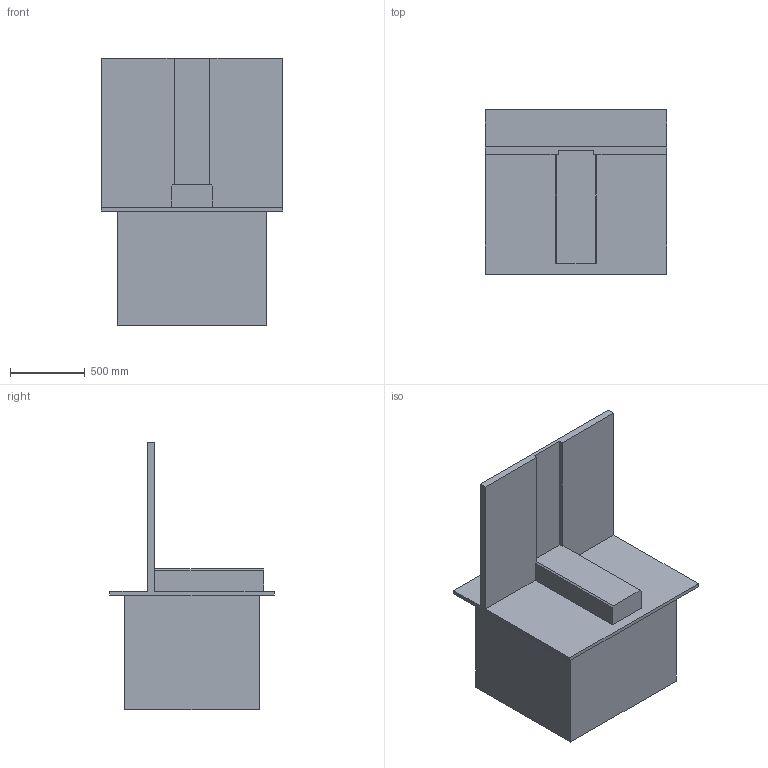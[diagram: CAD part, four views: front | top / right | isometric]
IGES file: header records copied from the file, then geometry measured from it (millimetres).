
Start section: SolidWorks IGES FILE using analytic representation for surfaces
Global section: file name: C:\Documents and Settings\lepoivre\Mes documents\Formation continue\NCSIMUL\aurelie\bedplat.IGS; native system: SolidWorks 2003 by SolidWorks Corporation; preprocessor: Version 5.3; author: lepoivre; date: 050317.180556; units: millimetre
Bounding box: 1215 x 1100 x 1795 mm (x, y, z)
Surface area: 8497697.5 mm2 (no closed solid volume)
Topology: 0 solids, 0 shells, 25 faces, 132 edges, 132 vertices
Faces by surface type: bspline 25
